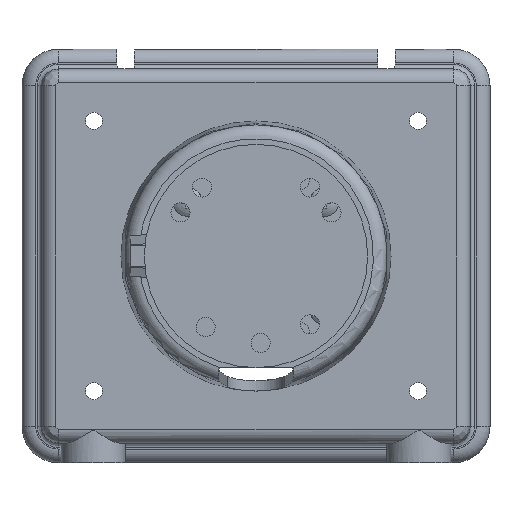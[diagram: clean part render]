
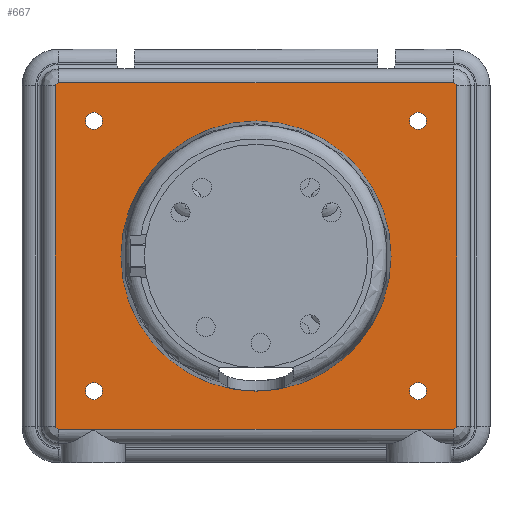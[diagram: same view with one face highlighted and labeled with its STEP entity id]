
A CAD part, front view. The second image highlights one B-rep face of the part: STEP entity #667.
In plain terms, the highlighted planar face has unit normal (0, -1, 0).
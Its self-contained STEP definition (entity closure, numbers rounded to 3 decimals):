
#667 = ADVANCED_FACE( '', ( #1423, #1424, #1425, #1426, #1427, #1428 ), #1429, .F. );
#1423 = FACE_BOUND( '', #2508, .T. );
#1424 = FACE_BOUND( '', #2509, .T. );
#1425 = FACE_BOUND( '', #2510, .T. );
#1426 = FACE_BOUND( '', #2511, .T. );
#1427 = FACE_BOUND( '', #2512, .T. );
#1428 = FACE_OUTER_BOUND( '', #2513, .T. );
#1429 = PLANE( '', #2514 );
#2508 = EDGE_LOOP( '', ( #5148 ) );
#2509 = EDGE_LOOP( '', ( #5149 ) );
#2510 = EDGE_LOOP( '', ( #5150 ) );
#2511 = EDGE_LOOP( '', ( #5151 ) );
#2512 = EDGE_LOOP( '', ( #5152 ) );
#2513 = EDGE_LOOP( '', ( #5153, #5154, #5155, #5156, #5157, #5158, #5159, #5160 ) );
#2514 = AXIS2_PLACEMENT_3D( '', #5161, #5162, #5163 );
#5148 = ORIENTED_EDGE( '', *, *, #5941, .F. );
#5149 = ORIENTED_EDGE( '', *, *, #5943, .F. );
#5150 = ORIENTED_EDGE( '', *, *, #5945, .F. );
#5151 = ORIENTED_EDGE( '', *, *, #5947, .F. );
#5152 = ORIENTED_EDGE( '', *, *, #6449, .F. );
#5153 = ORIENTED_EDGE( '', *, *, #6437, .F. );
#5154 = ORIENTED_EDGE( '', *, *, #5925, .F. );
#5155 = ORIENTED_EDGE( '', *, *, #6434, .T. );
#5156 = ORIENTED_EDGE( '', *, *, #6142, .F. );
#5157 = ORIENTED_EDGE( '', *, *, #6407, .T. );
#5158 = ORIENTED_EDGE( '', *, *, #6450, .T. );
#5159 = ORIENTED_EDGE( '', *, *, #6409, .F. );
#5160 = ORIENTED_EDGE( '', *, *, #6137, .T. );
#5161 = CARTESIAN_POINT( '', ( 0., 0., 0. ) );
#5162 = DIRECTION( '', ( 0., 1., 0. ) );
#5163 = DIRECTION( '', ( 0., 0., 1. ) );
#5925 = EDGE_CURVE( '', #7019, #7021, #7022, .T. );
#5941 = EDGE_CURVE( '', #7050, #7050, #7051, .F. );
#5943 = EDGE_CURVE( '', #7054, #7054, #7055, .F. );
#5945 = EDGE_CURVE( '', #7058, #7058, #7059, .F. );
#5947 = EDGE_CURVE( '', #7062, #7062, #7063, .F. );
#6137 = EDGE_CURVE( '', #7404, #7402, #7405, .T. );
#6142 = EDGE_CURVE( '', #7412, #7407, #7414, .T. );
#6407 = EDGE_CURVE( '', #7412, #7829, #7831, .T. );
#6409 = EDGE_CURVE( '', #7404, #7833, #7834, .T. );
#6434 = EDGE_CURVE( '', #7019, #7407, #7862, .T. );
#6437 = EDGE_CURVE( '', #7021, #7402, #7865, .T. );
#6449 = EDGE_CURVE( '', #7881, #7881, #7882, .F. );
#6450 = EDGE_CURVE( '', #7829, #7833, #7883, .T. );
#7019 = VERTEX_POINT( '', #9433 );
#7021 = VERTEX_POINT( '', #9435 );
#7022 = LINE( '', #9436, #9437 );
#7050 = VERTEX_POINT( '', #9511 );
#7051 = CIRCLE( '', #9512, 2.375 );
#7054 = VERTEX_POINT( '', #9515 );
#7055 = CIRCLE( '', #9516, 2.375 );
#7058 = VERTEX_POINT( '', #9519 );
#7059 = CIRCLE( '', #9520, 2.375 );
#7062 = VERTEX_POINT( '', #9523 );
#7063 = CIRCLE( '', #9524, 2.375 );
#7402 = VERTEX_POINT( '', #10104 );
#7404 = VERTEX_POINT( '', #10106 );
#7405 = LINE( '', #10107, #10108 );
#7407 = VERTEX_POINT( '', #10110 );
#7412 = VERTEX_POINT( '', #10116 );
#7414 = LINE( '', #10118, #10119 );
#7829 = VERTEX_POINT( '', #10791 );
#7831 = CIRCLE( '', #10793, 0.85 );
#7833 = VERTEX_POINT( '', #10795 );
#7834 = CIRCLE( '', #10796, 0.85 );
#7862 = CIRCLE( '', #10828, 0.85 );
#7865 = CIRCLE( '', #10831, 0.85 );
#7881 = VERTEX_POINT( '', #10854 );
#7882 = CIRCLE( '', #10855, 37.5 );
#7883 = LINE( '', #10856, #10857 );
#9433 = CARTESIAN_POINT( '', ( 54.835, 0., -48.141 ) );
#9435 = CARTESIAN_POINT( '', ( -54.835, 0., -48.141 ) );
#9436 = CARTESIAN_POINT( '', ( 54.835, 0., -48.141 ) );
#9437 = VECTOR( '', #11650, 1000. );
#9511 = CARTESIAN_POINT( '', ( 45., 0., -35.125 ) );
#9512 = AXIS2_PLACEMENT_3D( '', #11679, #11680, #11681 );
#9515 = CARTESIAN_POINT( '', ( 45., 0., 39.875 ) );
#9516 = AXIS2_PLACEMENT_3D( '', #11685, #11686, #11687 );
#9519 = CARTESIAN_POINT( '', ( -45., 0., 39.875 ) );
#9520 = AXIS2_PLACEMENT_3D( '', #11691, #11692, #11693 );
#9523 = CARTESIAN_POINT( '', ( -45., 0., -35.125 ) );
#9524 = AXIS2_PLACEMENT_3D( '', #11697, #11698, #11699 );
#10104 = CARTESIAN_POINT( '', ( -55.685, 0., -47.291 ) );
#10106 = CARTESIAN_POINT( '', ( -55.685, 0., 47.291 ) );
#10107 = CARTESIAN_POINT( '', ( -55.685, 0., 47.291 ) );
#10108 = VECTOR( '', #11988, 1000. );
#10110 = CARTESIAN_POINT( '', ( 55.685, 0., -47.291 ) );
#10116 = CARTESIAN_POINT( '', ( 55.685, 0., 47.291 ) );
#10118 = CARTESIAN_POINT( '', ( 55.685, 0., 47.291 ) );
#10119 = VECTOR( '', #11999, 1000. );
#10791 = CARTESIAN_POINT( '', ( 54.835, 0., 48.141 ) );
#10793 = AXIS2_PLACEMENT_3D( '', #12470, #12471, #12472 );
#10795 = CARTESIAN_POINT( '', ( -54.835, 0., 48.141 ) );
#10796 = AXIS2_PLACEMENT_3D( '', #12476, #12477, #12478 );
#10828 = AXIS2_PLACEMENT_3D( '', #12543, #12544, #12545 );
#10831 = AXIS2_PLACEMENT_3D( '', #12552, #12553, #12554 );
#10854 = CARTESIAN_POINT( '', ( 0., 0., 37.5 ) );
#10855 = AXIS2_PLACEMENT_3D( '', #12574, #12575, #12576 );
#10856 = CARTESIAN_POINT( '', ( 54.835, 0., 48.141 ) );
#10857 = VECTOR( '', #12577, 1000. );
#11650 = DIRECTION( '', ( -1., 0., 0. ) );
#11679 = CARTESIAN_POINT( '', ( 45., 0., -37.5 ) );
#11680 = DIRECTION( '', ( 0., 1., 0. ) );
#11681 = DIRECTION( '', ( 0., 0., 1. ) );
#11685 = CARTESIAN_POINT( '', ( 45., 0., 37.5 ) );
#11686 = DIRECTION( '', ( 0., 1., 0. ) );
#11687 = DIRECTION( '', ( 0., 0., 1. ) );
#11691 = CARTESIAN_POINT( '', ( -45., 0., 37.5 ) );
#11692 = DIRECTION( '', ( 0., 1., 0. ) );
#11693 = DIRECTION( '', ( 0., 0., 1. ) );
#11697 = CARTESIAN_POINT( '', ( -45., 0., -37.5 ) );
#11698 = DIRECTION( '', ( 0., 1., 0. ) );
#11699 = DIRECTION( '', ( 0., 0., 1. ) );
#11988 = DIRECTION( '', ( 0., 0., -1. ) );
#11999 = DIRECTION( '', ( 0., 0., -1. ) );
#12470 = CARTESIAN_POINT( '', ( 54.835, 0., 47.291 ) );
#12471 = DIRECTION( '', ( 0., -1., 0. ) );
#12472 = DIRECTION( '', ( 0., 0., -1. ) );
#12476 = CARTESIAN_POINT( '', ( -54.835, 0., 47.291 ) );
#12477 = DIRECTION( '', ( 0., 1., 0. ) );
#12478 = DIRECTION( '', ( 0., 0., 1. ) );
#12543 = CARTESIAN_POINT( '', ( 54.835, 0., -47.291 ) );
#12544 = DIRECTION( '', ( 0., -1., 0. ) );
#12545 = DIRECTION( '', ( 0., 0., -1. ) );
#12552 = CARTESIAN_POINT( '', ( -54.835, 0., -47.291 ) );
#12553 = DIRECTION( '', ( 0., 1., 0. ) );
#12554 = DIRECTION( '', ( 0., 0., 1. ) );
#12574 = CARTESIAN_POINT( '', ( 0., 0., 0. ) );
#12575 = DIRECTION( '', ( 0., 1., 0. ) );
#12576 = DIRECTION( '', ( 0., 0., 1. ) );
#12577 = DIRECTION( '', ( -1., 0., 0. ) );
